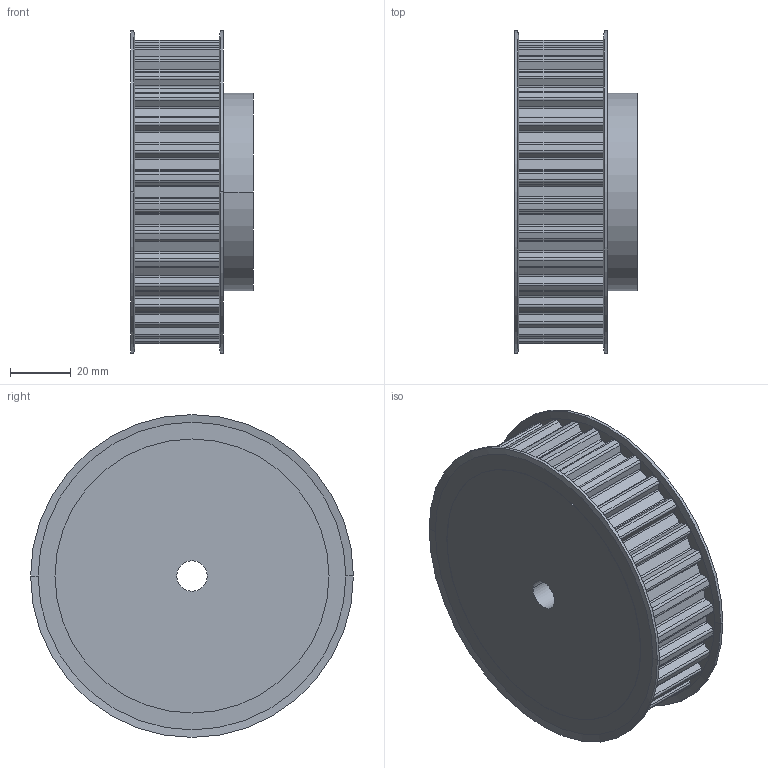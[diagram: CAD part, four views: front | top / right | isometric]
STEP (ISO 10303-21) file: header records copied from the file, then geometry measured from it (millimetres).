
FILE_DESCRIPTION( ( '' ), '1' );
FILE_NAME( 'C:/Users/Stangenbergd/Documents/CAD_Step/1/16433200.stp', '2021-10-19T08:55:50', ( '' ), ( '' ), ' ', ' ', ' ' );
FILE_SCHEMA( ( 'CONFIG_CONTROL_DESIGN' ) );
Length unit declared in the file: millimetre
Products named in the file (1): 1
Bounding box: 40.2 x 106 x 106 mm (x, y, z)
Volume: 250993.7 mm3; surface area: 36969.2 mm2
Topology: 1 solids, 1 shells, 283 faces, 820 edges, 544 vertices
Faces by surface type: cylinder 172, plane 103, cone 8
Entity records: 9510 total; most frequent: DIRECTION 1740, CARTESIAN_POINT 1648, ORIENTED_EDGE 1640, EDGE_CURVE 820, AXIS2_PLACEMENT_3D 636, VERTEX_POINT 544, LINE 468, VECTOR 468
